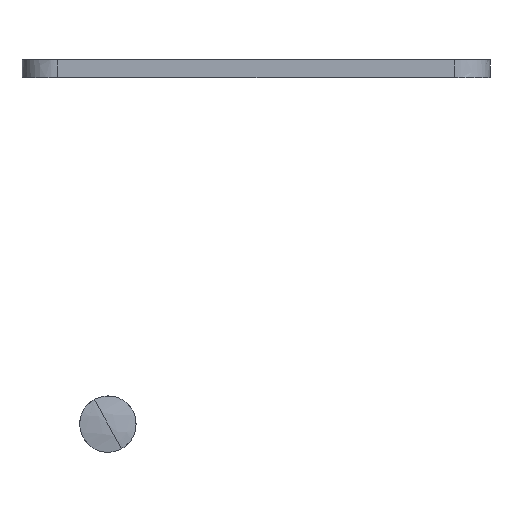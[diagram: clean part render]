
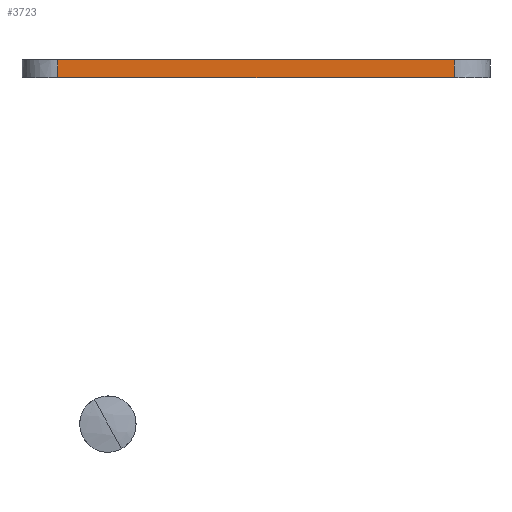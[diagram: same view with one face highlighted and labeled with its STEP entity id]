
A CAD part, left-side view. The second image highlights one B-rep face of the part: STEP entity #3723.
In plain terms, the highlighted planar face has unit normal (-1, 0, 0).
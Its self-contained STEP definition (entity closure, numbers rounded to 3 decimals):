
#161 = ORIENTED_EDGE ( 'NONE', *, *, #3806, .F. ) ;
#169 = ORIENTED_EDGE ( 'NONE', *, *, #3794, .F. ) ;
#170 = ORIENTED_EDGE ( 'NONE', *, *, #3811, .T. ) ;
#173 = ORIENTED_EDGE ( 'NONE', *, *, #3809, .F. ) ;
#177 = B_SPLINE_CURVE_WITH_KNOTS ( 'NONE', 3,
 ( #2222, #2219, #2218, #2217 ),
 .UNSPECIFIED., .F., .F.,
 ( 4, 4 ),
 ( 0., 1. ),
 .UNSPECIFIED. ) ;
#1806 = VECTOR ( 'NONE', #2156, 1000. ) ;
#1807 = LINE ( 'NONE', #2157, #1806 ) ;
#1864 = LINE ( 'NONE', #2139, #1904 ) ;
#1884 = FACE_OUTER_BOUND ( 'NONE', #2750, .T. ) ;
#1893 = LINE ( 'NONE', #2135, #1894 ) ;
#1894 = VECTOR ( 'NONE', #2134, 1000. ) ;
#1904 = VECTOR ( 'NONE', #2138, 1000. ) ;
#1984 = AXIS2_PLACEMENT_3D ( 'NONE', #2420, #2367, #2366 ) ;
#2134 = DIRECTION ( 'NONE',  ( 0., 1., 0. ) ) ;
#2135 = CARTESIAN_POINT ( 'NONE',  ( -57., 67., 0. ) ) ;
#2138 = DIRECTION ( 'NONE',  ( 0., 0., -1. ) ) ;
#2139 = CARTESIAN_POINT ( 'NONE',  ( -57., -67., -6. ) ) ;
#2156 = DIRECTION ( 'NONE',  ( 0., 1., 0. ) ) ;
#2157 = CARTESIAN_POINT ( 'NONE',  ( -57., -79., -6. ) ) ;
#2217 = CARTESIAN_POINT ( 'NONE',  ( -57., 67., 0. ) ) ;
#2218 = CARTESIAN_POINT ( 'NONE',  ( -57., 67., -2. ) ) ;
#2219 = CARTESIAN_POINT ( 'NONE',  ( -57., 67., -4. ) ) ;
#2222 = CARTESIAN_POINT ( 'NONE',  ( -57., 67., -6. ) ) ;
#2366 = DIRECTION ( 'NONE',  ( 0., 0., 1. ) ) ;
#2367 = DIRECTION ( 'NONE',  ( 1., 0., 0. ) ) ;
#2420 = CARTESIAN_POINT ( 'NONE',  ( -57., 67., -6. ) ) ;
#2422 = PLANE ( 'NONE',  #1984 ) ;
#2750 = EDGE_LOOP ( 'NONE', ( #169, #161, #173, #170 ) ) ;
#2931 = CARTESIAN_POINT ( 'NONE',  ( -57., 67., -6. ) ) ;
#2933 = CARTESIAN_POINT ( 'NONE',  ( -57., 67., 0. ) ) ;
#2958 = CARTESIAN_POINT ( 'NONE',  ( -57., -67., 0. ) ) ;
#3040 = CARTESIAN_POINT ( 'NONE',  ( -57., -67., -6. ) ) ;
#3628 = VERTEX_POINT ( 'NONE', #3040 ) ;
#3656 = VERTEX_POINT ( 'NONE', #2958 ) ;
#3681 = VERTEX_POINT ( 'NONE', #2933 ) ;
#3683 = VERTEX_POINT ( 'NONE', #2931 ) ;
#3723 = ADVANCED_FACE ( 'NONE', ( #1884 ), #2422, .F. ) ;
#3794 = EDGE_CURVE ( 'NONE', #3683, #3681, #177, .T. ) ;
#3806 = EDGE_CURVE ( 'NONE', #3628, #3683, #1807, .T. ) ;
#3809 = EDGE_CURVE ( 'NONE', #3656, #3628, #1864, .T. ) ;
#3811 = EDGE_CURVE ( 'NONE', #3656, #3681, #1893, .T. ) ;
